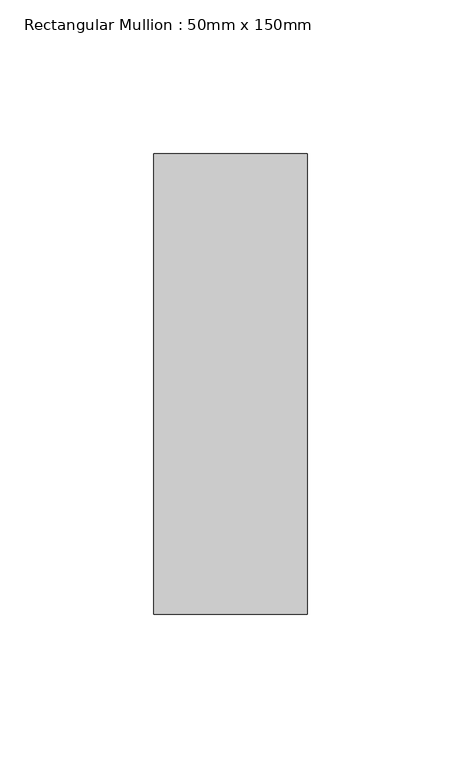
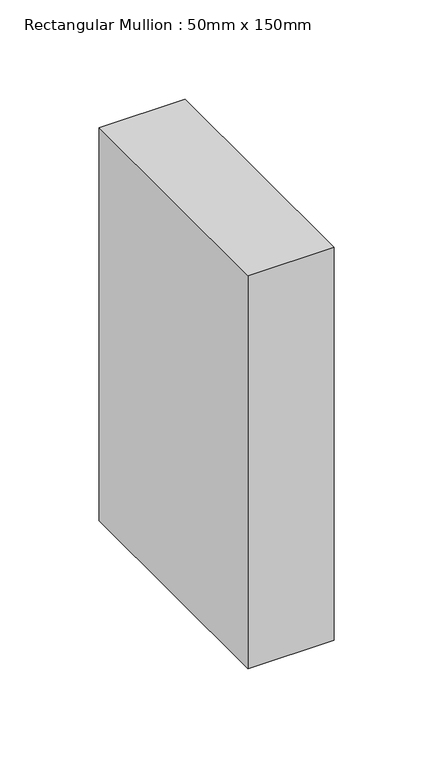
"""IFC4 building model written with IfcOpenShell, lengths in millimetres: member geometry, Rectangular Mullion : 50mm x 150mm."""

from ifc_helpers import new_model, si_unit, frame, origin, place, context, project, spatial, polyline, outline, extrude, source, transform, mapped, element, save


def rectangular_mullion_50mm_x_150mm_fae529a7(model_context):
    return source(origin(), model_context, "Body", "SweptSolid", [
        extrude(outline(polyline([(0.0, 75.0), (0.0, -75.0), (-50.0, -75.0), (-50.0, 75.0), (0.0, 75.0)])), frame((0.0, 0.0, -241.8586803), z_axis=(0.0, 0.0, 1.0), x_axis=(1.0, 0.0, 0.0)), (0.0, 0.0, 1.0), 241.8586803),
    ])


if __name__ == "__main__":
    model = new_model("IFC4")
    model_context = context("Model", 3, world=origin())
    ifc_project = project(units=[si_unit("LENGTHUNIT", "METRE", prefix="MILLI")], contexts=[model_context])
    site = spatial("IfcSite", under=ifc_project)
    building = spatial("IfcBuilding", under=site)
    placement = place(None, origin())
    rectangular_mullion_50mm_x_150mm_shape = rectangular_mullion_50mm_x_150mm_fae529a7(model_context)
    element("IfcMember", 1, ObjectType="Rectangular Mullion : 50mm x 150mm", at=placement, inside=building, context=model_context, shape_type="MappedRepresentation", body=[
        mapped(rectangular_mullion_50mm_x_150mm_shape, transform((0.0, 0.0, 0.0), x_axis=(1.0, 0.0, 0.0), y_axis=(0.0, 1.0, 0.0), z_axis=(0.0, 0.0, 1.0))),
    ])
    save(model, "model.ifc")
